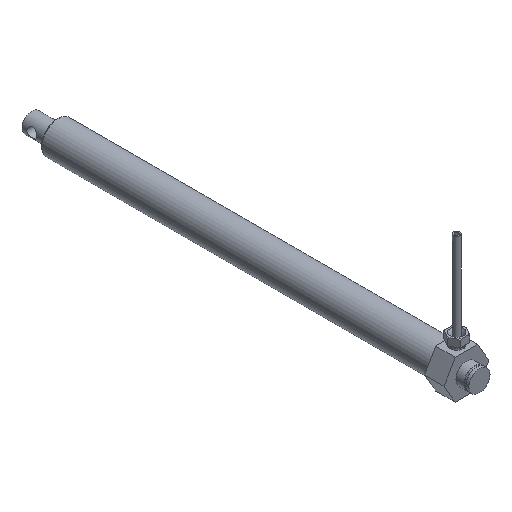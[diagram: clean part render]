
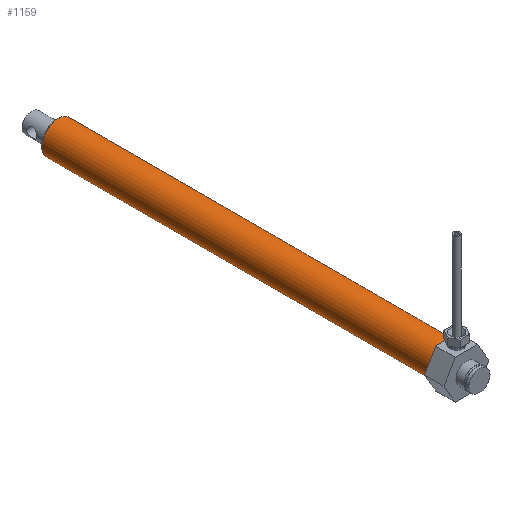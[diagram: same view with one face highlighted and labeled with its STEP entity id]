
A CAD part, isometric view. The second image highlights one B-rep face of the part: STEP entity #1159.
In plain terms, the highlighted cylindrical face has radius 10 mm (diameter 20 mm), a full revolution.
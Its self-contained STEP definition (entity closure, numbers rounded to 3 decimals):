
#220=CYLINDRICAL_SURFACE('',#1716,10.);
#257=ORIENTED_EDGE('',*,*,#511,.F.);
#258=ORIENTED_EDGE('',*,*,#510,.T.);
#510=EDGE_CURVE('',#639,#639,#750,.T.);
#511=EDGE_CURVE('',#640,#640,#751,.T.);
#639=VERTEX_POINT('',#2290);
#640=VERTEX_POINT('',#2293);
#750=CIRCLE('',#1715,10.);
#751=CIRCLE('',#1717,10.);
#830=EDGE_LOOP('',(#257));
#831=EDGE_LOOP('',(#258));
#994=FACE_BOUND('',#830,.T.);
#995=FACE_BOUND('',#831,.T.);
#1159=ADVANCED_FACE('',(#994,#995),#220,.T.);
#1715=AXIS2_PLACEMENT_3D('',#2289,#1903,#1904);
#1716=AXIS2_PLACEMENT_3D('',#2291,#1905,#1906);
#1717=AXIS2_PLACEMENT_3D('',#2292,#1907,#1908);
#1903=DIRECTION('',(-1.,0.,0.));
#1904=DIRECTION('',(0.,0.,1.));
#1905=DIRECTION('',(-1.,0.,0.));
#1906=DIRECTION('',(0.,0.,1.));
#1907=DIRECTION('',(-1.,0.,0.));
#1908=DIRECTION('',(0.,0.,1.));
#2289=CARTESIAN_POINT('',(240.,0.,0.));
#2290=CARTESIAN_POINT('',(240.,0.,10.));
#2291=CARTESIAN_POINT('',(-60.,0.,0.));
#2292=CARTESIAN_POINT('',(0.,0.,0.));
#2293=CARTESIAN_POINT('',(0.,0.,10.));
